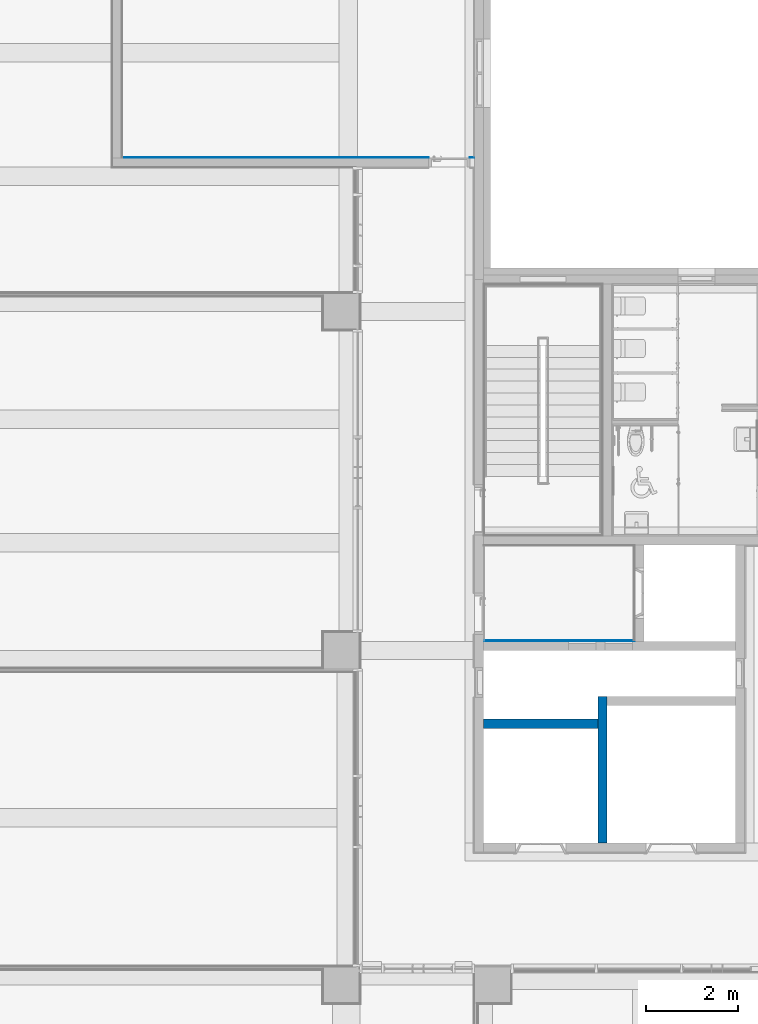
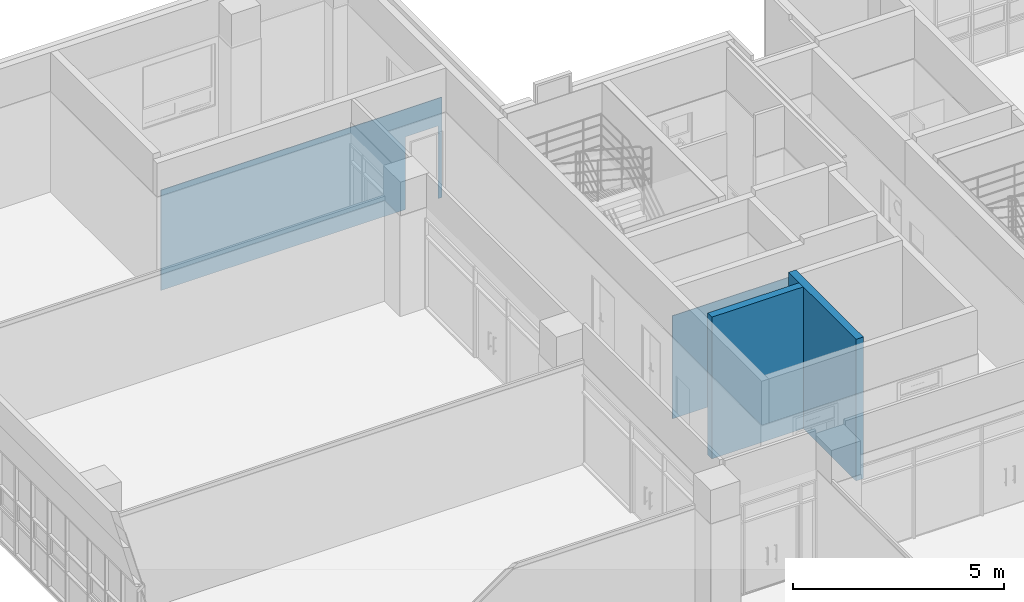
# One storey, part 50 of 76: 4 walls, 1 opening.
"""IFC2X3 building model written with IfcOpenShell, lengths in millimetres."""

from ifc_helpers import new_model, entity, si_unit, converted_unit, derived_unit, direction, frame, frame_2d, origin, place, context, subcontext, project, spatial, rectangle, extrude, material, layer, layer_set, layer_usage, type_object, element, save


model = new_model("IFC2X3")

# Units and contexts
model_context = context("Model", 3, precision=0.01, world=origin(), true_north=direction((6.123031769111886e-17, 1.0)))
body_context = subcontext(model_context, "Body", "Model", "MODEL_VIEW")
ifc_project = project(units=[si_unit("LENGTHUNIT", "METRE", prefix="MILLI"), si_unit("AREAUNIT", "SQUARE_METRE"), si_unit("VOLUMEUNIT", "CUBIC_METRE"), converted_unit("PLANEANGLEUNIT", "DEGREE", entity("IfcRatioMeasure", 0.017453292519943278), si_unit("PLANEANGLEUNIT", "RADIAN"), dimensions=[0, 0, 0, 0, 0, 0, 0]), si_unit("MASSUNIT", "GRAM", prefix="KILO"), derived_unit("MASSDENSITYUNIT", [(si_unit("MASSUNIT", "GRAM", prefix="KILO"), 1), (si_unit("LENGTHUNIT", "METRE"), -3)]), derived_unit("MOMENTOFINERTIAUNIT", [(si_unit("LENGTHUNIT", "METRE"), 4)]), si_unit("TIMEUNIT", "SECOND"), si_unit("FREQUENCYUNIT", "HERTZ"), si_unit("THERMODYNAMICTEMPERATUREUNIT", "DEGREE_CELSIUS"), derived_unit("THERMALTRANSMITTANCEUNIT", [(si_unit("MASSUNIT", "GRAM", prefix="KILO"), 1), (si_unit("THERMODYNAMICTEMPERATUREUNIT", "KELVIN"), -1), (si_unit("TIMEUNIT", "SECOND"), -3)]), derived_unit("VOLUMETRICFLOWRATEUNIT", [(si_unit("LENGTHUNIT", "METRE"), 3), (si_unit("TIMEUNIT", "SECOND"), -1)]), derived_unit("MASSFLOWRATEUNIT", [(si_unit("MASSUNIT", "GRAM", prefix="KILO"), 1), (si_unit("TIMEUNIT", "SECOND"), -1)]), derived_unit("ROTATIONALFREQUENCYUNIT", [(si_unit("TIMEUNIT", "SECOND"), -1)]), si_unit("ELECTRICCURRENTUNIT", "AMPERE"), si_unit("ELECTRICVOLTAGEUNIT", "VOLT"), si_unit("POWERUNIT", "WATT"), si_unit("FORCEUNIT", "NEWTON", prefix="KILO"), si_unit("ILLUMINANCEUNIT", "LUX"), si_unit("LUMINOUSFLUXUNIT", "LUMEN"), si_unit("LUMINOUSINTENSITYUNIT", "CANDELA"), derived_unit("USERDEFINED", [(si_unit("MASSUNIT", "GRAM", prefix="KILO"), -1), (si_unit("LENGTHUNIT", "METRE"), -2), (si_unit("TIMEUNIT", "SECOND"), 3), (si_unit("LUMINOUSFLUXUNIT", "LUMEN"), 1)]), derived_unit("SOUNDPOWERUNIT", [(si_unit("MASSUNIT", "GRAM", prefix="KILO"), 1), (si_unit("LENGTHUNIT", "METRE"), 2), (si_unit("TIMEUNIT", "SECOND"), -3)]), derived_unit("SOUNDPRESSUREUNIT", [(si_unit("MASSUNIT", "GRAM", prefix="KILO"), 1), (si_unit("LENGTHUNIT", "METRE"), -1), (si_unit("TIMEUNIT", "SECOND"), -2)]), derived_unit("LINEARVELOCITYUNIT", [(si_unit("LENGTHUNIT", "METRE"), 1), (si_unit("TIMEUNIT", "SECOND"), -1)]), si_unit("PRESSUREUNIT", "PASCAL"), derived_unit("USERDEFINED", [(si_unit("LENGTHUNIT", "METRE"), -2), (si_unit("MASSUNIT", "GRAM", prefix="KILO"), 1), (si_unit("TIMEUNIT", "SECOND"), -2)]), derived_unit("LINEARFORCEUNIT", [(si_unit("MASSUNIT", "GRAM", prefix="KILO"), 1), (si_unit("LENGTHUNIT", "METRE"), 1), (si_unit("TIMEUNIT", "SECOND"), -2), (si_unit("LENGTHUNIT", "METRE"), -1)]), derived_unit("PLANARFORCEUNIT", [(si_unit("MASSUNIT", "GRAM", prefix="KILO"), 1), (si_unit("LENGTHUNIT", "METRE"), 1), (si_unit("TIMEUNIT", "SECOND"), -2), (si_unit("LENGTHUNIT", "METRE"), -2)])], contexts=[model_context])

# Site, building, storey
site_placement = place(None, frame((-14167.972527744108, -657.2125860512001, 0.0)))
site = spatial("IfcSite", under=ifc_project, at=site_placement, Name="Default", CompositionType="ELEMENT")
building_placement = place(site_placement, origin())
building = spatial("IfcBuilding", under=site, at=building_placement, Name="Sample Building", CompositionType="ELEMENT")
storey_placement = place(building_placement, frame((0.0, 0.0, 9300.0)))
storey = spatial("IfcBuildingStorey", under=building, at=storey_placement, Name="지상 3층", CompositionType="ELEMENT", Elevation=9300.000000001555)

# Walls
ifc_material_1 = material(Name="KBIMS-콘크리트")
ifc_layer_1 = layer(ifc_material_1, 200.0)
ifc_layer_set_1 = layer_set([ifc_layer_1], Name="기본 벽:WA111-철근콘크리트구조 벽 200mm_CW1")
ifc_layer_usage_1 = layer_usage(ifc_layer_set_1, "AXIS2", "NEGATIVE", 100.0)
wall_type_1 = type_object("IfcWallType", Name="기본 벽:WA111-철근콘크리트구조 벽 200mm_CW1", PredefinedType="STANDARD", material=ifc_layer_set_1)
wall_1_placement = place(storey_placement, frame((32867.97271708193, 15757.302947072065, -2.297844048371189e-09), z_axis=(0.0, 0.0, 1.0), x_axis=(0.0, 1.0, 0.0)))
element("IfcWallStandardCase", 1, at=wall_1_placement, inside=storey, type_object=wall_type_1, material=ifc_layer_usage_1, Name="기본 벽:WA111-철근콘크리트구조 벽 200mm_CW1", ObjectType="기본 벽:WA111-철근콘크리트구조 벽 200mm_CW1", context=body_context, shape_type="SweptSolid", body=[
    extrude(rectangle(XDim=3199.909362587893, YDim=200.0000000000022, at=frame_2d((1599.9546812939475, -2.1032064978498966e-12), x_axis=(-1.0, 0.0))), origin(), (0.0, 0.0, 1.0), 4100.000000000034),
])
ifc_layer_usage_2 = layer_usage(ifc_layer_set_1, "AXIS2", "NEGATIVE", 100.0)
wall_2_placement = place(storey_placement, frame((32767.97271708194, 18357.212309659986, -2.297844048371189e-09), z_axis=(0.0, 0.0, 1.0), x_axis=(-1.0, 0.0, 0.0)))
element("IfcWallStandardCase", 2, at=wall_2_placement, inside=storey, type_object=wall_type_1, material=ifc_layer_usage_2, Name="기본 벽:WA111-철근콘크리트구조 벽 200mm_CW1", ObjectType="기본 벽:WA111-철근콘크리트구조 벽 200mm_CW1", context=body_context, shape_type="SweptSolid", body=[
    extrude(rectangle(XDim=2500.008955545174, YDim=200.0, at=frame_2d((1250.004477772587, 9.592326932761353e-13), x_axis=(-1.0, 0.0))), origin(), (0.0, 0.0, 1.0), 4100.000000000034),
])
ifc_material_2 = material(Name="WA611-수성페인트 (내부) 벽 (3회)")
ifc_layer_2 = layer(ifc_material_2, 1.0)
ifc_material_3 = material(Name="WA551-시멘트모르타르 (내부) 벽 18mm")
ifc_layer_3 = layer(ifc_material_3, 16.0)
ifc_material_4 = material(Name="WA555-콘크리트면정리 벽 (내부)")
ifc_layer_4 = layer(ifc_material_4, 1.0)
ifc_layer_set_2 = layer_set([ifc_layer_2, ifc_layer_3, ifc_layer_4], Name="기본 벽:A1-32-06A-콘크리트면정리, 시멘트모르타르(미장용), 수성페인트(내부) (18mm)")
ifc_layer_usage_3 = layer_usage(ifc_layer_set_2, "AXIS2", "POSITIVE", -9.000000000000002)
wall_type_2 = type_object("IfcWallType", Name="기본 벽:A1-32-06A-콘크리트면정리, 시멘트모르타르(미장용), 수성페인트(내부) (18mm)", PredefinedType="STANDARD", material=ifc_layer_set_2)
wall_3_placement = place(storey_placement, frame((33567.71147767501, 20166.21230798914, 0.0), z_axis=(0.0, 0.0, 1.0), x_axis=(-1.0, 0.0, 0.0)))
element("IfcWallStandardCase", 3, at=wall_3_placement, inside=storey, type_object=wall_type_2, material=ifc_layer_usage_3, Name="기본 벽:A1-32-06A-콘크리트면정리, 시멘트모르타르(미장용), 수성페인트(내부) (18mm)", ObjectType="기본 벽:A1-32-06A-콘크리트면정리, 시멘트모르타르(미장용), 수성페인트(내부) (18mm)", context=body_context, shape_type="SweptSolid", body=[
    extrude(rectangle(XDim=3282.0087295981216, YDim=18.00000000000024, at=frame_2d((1641.0043647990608, -1.645794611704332e-12), x_axis=(-1.0, 0.0))), origin(), (0.0, 0.0, 1.0), 2979.9999999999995),
])

# Wall, opening
ifc_layer_usage_4 = layer_usage(ifc_layer_set_2, "AXIS2", "NEGATIVE", 9.000000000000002)
wall_4_placement = place(storey_placement, frame((22385.972491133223, 30716.212275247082, 80.0)))
wall_4 = element("IfcWallStandardCase", 4, at=wall_4_placement, inside=storey, type_object=wall_type_2, material=ifc_layer_usage_4, Name="기본 벽:A1-32-06A-콘크리트면정리, 시멘트모르타르(미장용), 수성페인트(내부) (18mm)", ObjectType="기본 벽:A1-32-06A-콘크리트면정리, 시멘트모르타르(미장용), 수성페인트(내부) (18mm)", context=body_context, shape_type="SweptSolid", body=[
    extrude(rectangle(XDim=7681.99127040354, YDim=18.00000000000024, at=frame_2d((3840.99563520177, -6.439293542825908e-13), x_axis=(1.0, 0.0))), origin(), (0.0, 0.0, 1.0), 2899.999999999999),
])
opening_placement = place(wall_4_placement, origin())
element("IfcOpeningElement", 5, at=opening_placement, cuts=wall_4, Name="기본 벽:A1-32-06A-콘크리트면정리, 시멘트모르타르(미장용), 수성페인트(내부) (18mm)", ObjectType="Opening", context=body_context, shape_type="SweptSolid", body=[
    extrude(rectangle(XDim=2099.9999999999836, YDim=899.999999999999, at=frame_2d((-2.1600499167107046e-12, -1.0231815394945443e-12), x_axis=(0.0, 1.0))), frame((7131.991270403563, -1733.0, 1050.0), z_axis=(0.0, 1.0, 0.0), x_axis=(-1.0, 0.0, 0.0)), (0.0, 0.0, 1.0), 3048.0),
])

save(model, "model.ifc")
